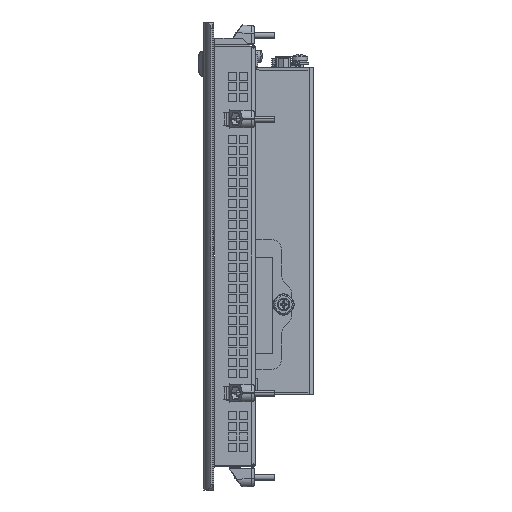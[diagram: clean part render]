
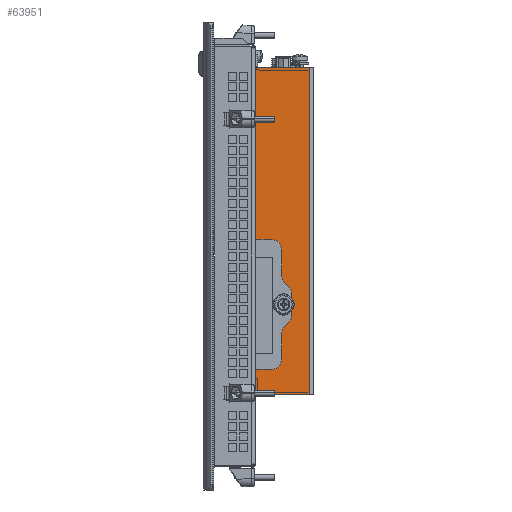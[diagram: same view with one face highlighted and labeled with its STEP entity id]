
A CAD part, left-side view. The second image highlights one B-rep face of the part: STEP entity #63951.
In plain terms, the highlighted planar face has unit normal (-1, 0, 0).
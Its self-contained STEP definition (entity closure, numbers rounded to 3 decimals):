
#39486=DIRECTION('',(0.,0.,1.));
#39487=VECTOR('',#39486,163.5);
#39488=CARTESIAN_POINT('',(-126.5,-47.9,-64.25));
#39489=LINE('',#39488,#39487);
#39490=DIRECTION('',(0.,1.,0.));
#39491=VECTOR('',#39490,8.5);
#39492=CARTESIAN_POINT('',(-126.5,-29.4,4.25));
#39493=LINE('',#39492,#39491);
#39494=DIRECTION('',(0.,-1.,0.));
#39495=VECTOR('',#39494,3.);
#39496=CARTESIAN_POINT('',(-126.5,-17.9,4.25));
#39497=LINE('',#39496,#39495);
#39498=DIRECTION('',(0.,-0.707,-0.707));
#39499=VECTOR('',#39498,1.414);
#39500=CARTESIAN_POINT('',(-126.5,-16.9,5.25));
#39501=LINE('',#39500,#39499);
#39502=DIRECTION('',(0.,0.,-1.));
#39503=VECTOR('',#39502,28.);
#39504=CARTESIAN_POINT('',(-126.5,-16.9,33.25));
#39505=LINE('',#39504,#39503);
#39506=DIRECTION('',(0.,0.707,-0.707));
#39507=VECTOR('',#39506,1.414);
#39508=CARTESIAN_POINT('',(-126.5,-17.9,34.25));
#39509=LINE('',#39508,#39507);
#39510=DIRECTION('',(0.,-1.,0.));
#39511=VECTOR('',#39510,3.);
#39512=CARTESIAN_POINT('',(-126.5,-17.9,34.25));
#39513=LINE('',#39512,#39511);
#39514=DIRECTION('',(0.,0.,-1.));
#39515=VECTOR('',#39514,55.);
#39516=CARTESIAN_POINT('',(-126.5,-20.9,89.25));
#39517=LINE('',#39516,#39515);
#39518=DIRECTION('',(0.,0.,1.));
#39519=VECTOR('',#39518,4.);
#39520=CARTESIAN_POINT('',(-126.5,-20.9,89.25));
#39521=LINE('',#39520,#39519);
#39522=DIRECTION('',(0.,1.,0.));
#39523=VECTOR('',#39522,1.5);
#39524=CARTESIAN_POINT('',(-126.5,-20.9,93.25));
#39525=LINE('',#39524,#39523);
#39526=DIRECTION('',(0.,0.,-1.));
#39527=VECTOR('',#39526,3.);
#39528=CARTESIAN_POINT('',(-126.5,-19.4,93.25));
#39529=LINE('',#39528,#39527);
#39530=DIRECTION('',(0.,-0.707,0.707));
#39531=VECTOR('',#39530,1.414);
#39532=CARTESIAN_POINT('',(-126.5,-18.4,89.25));
#39533=LINE('',#39532,#39531);
#39534=DIRECTION('',(0.,-1.,0.));
#39535=VECTOR('',#39534,0.5);
#39536=CARTESIAN_POINT('',(-126.5,-17.9,89.25));
#39537=LINE('',#39536,#39535);
#39538=DIRECTION('',(0.,-0.707,-0.707));
#39539=VECTOR('',#39538,1.414);
#39540=CARTESIAN_POINT('',(-126.5,-16.9,90.25));
#39541=LINE('',#39540,#39539);
#39542=DIRECTION('',(0.,0.,-1.));
#39543=VECTOR('',#39542,8.);
#39544=CARTESIAN_POINT('',(-126.5,-16.9,98.25));
#39545=LINE('',#39544,#39543);
#39546=DIRECTION('',(0.,0.707,-0.707));
#39547=VECTOR('',#39546,1.414);
#39548=CARTESIAN_POINT('',(-126.5,-17.9,99.25));
#39549=LINE('',#39548,#39547);
#39550=DIRECTION('',(0.,0.,1.));
#39551=VECTOR('',#39550,4.);
#39552=CARTESIAN_POINT('',(-126.5,-20.9,-64.25));
#39553=LINE('',#39552,#39551);
#39554=DIRECTION('',(0.,1.,0.));
#39555=VECTOR('',#39554,1.5);
#39556=CARTESIAN_POINT('',(-126.5,-20.9,-60.25));
#39557=LINE('',#39556,#39555);
#39558=DIRECTION('',(0.,0.,-1.));
#39559=VECTOR('',#39558,3.);
#39560=CARTESIAN_POINT('',(-126.5,-19.4,-60.25));
#39561=LINE('',#39560,#39559);
#39562=DIRECTION('',(0.,-0.707,0.707));
#39563=VECTOR('',#39562,1.414);
#39564=CARTESIAN_POINT('',(-126.5,-18.4,-64.25));
#39565=LINE('',#39564,#39563);
#39566=DIRECTION('',(0.,-0.707,-0.707));
#39567=VECTOR('',#39566,1.414);
#39568=CARTESIAN_POINT('',(-126.5,-16.9,-63.25));
#39569=LINE('',#39568,#39567);
#39570=DIRECTION('',(0.,0.,-1.));
#39571=VECTOR('',#39570,6.5);
#39572=CARTESIAN_POINT('',(-126.5,-16.9,-56.75));
#39573=LINE('',#39572,#39571);
#39574=DIRECTION('',(0.,0.707,-0.707));
#39575=VECTOR('',#39574,1.414);
#39576=CARTESIAN_POINT('',(-126.5,-17.9,-55.75));
#39577=LINE('',#39576,#39575);
#39578=DIRECTION('',(0.,-1.,0.));
#39579=VECTOR('',#39578,3.);
#39580=CARTESIAN_POINT('',(-126.5,-17.9,-55.75));
#39581=LINE('',#39580,#39579);
#39582=DIRECTION('',(0.,0.,-1.));
#39583=VECTOR('',#39582,12.);
#39584=CARTESIAN_POINT('',(-126.5,-20.9,-43.75));
#39585=LINE('',#39584,#39583);
#39586=DIRECTION('',(0.,-1.,0.));
#39587=VECTOR('',#39586,8.5);
#39588=CARTESIAN_POINT('',(-126.5,-20.9,-43.75));
#39589=LINE('',#39588,#39587);
#39590=DIRECTION('',(0.,0.,1.));
#39591=VECTOR('',#39590,48.);
#39592=CARTESIAN_POINT('',(-126.5,-29.4,-43.75));
#39593=LINE('',#39592,#39591);
#39594=CARTESIAN_POINT('',(-126.5,-34.9,-19.25));
#39595=DIRECTION('',(-1.,0.,0.));
#39596=DIRECTION('',(0.,0.,1.));
#39597=AXIS2_PLACEMENT_3D('',#39594,#39595,#39596);
#39599=CARTESIAN_POINT('',(-126.5,-34.9,-19.25));
#39600=DIRECTION('',(-1.,0.,0.));
#39601=DIRECTION('',(0.,0.,-1.));
#39602=AXIS2_PLACEMENT_3D('',#39599,#39600,#39601);
#39766=DIRECTION('',(0.,-1.,0.));
#39767=VECTOR('',#39766,0.5);
#39768=CARTESIAN_POINT('',(-126.5,-17.9,-64.25));
#39769=LINE('',#39768,#39767);
#39778=DIRECTION('',(0.,-1.,0.));
#39779=VECTOR('',#39778,27.);
#39780=CARTESIAN_POINT('',(-126.5,-20.9,-64.25));
#39781=LINE('',#39780,#39779);
#39794=DIRECTION('',(0.,1.,0.));
#39795=VECTOR('',#39794,30.);
#39796=CARTESIAN_POINT('',(-126.5,-47.9,99.25));
#39797=LINE('',#39796,#39795);
#52466=CARTESIAN_POINT('',(-126.5,-47.9,-64.25));
#52467=CARTESIAN_POINT('',(-126.5,-47.9,99.25));
#52468=VERTEX_POINT('',#52466);
#52469=VERTEX_POINT('',#52467);
#54952=CARTESIAN_POINT('',(-126.5,-20.9,-60.25));
#54953=CARTESIAN_POINT('',(-126.5,-20.9,-64.25));
#54954=VERTEX_POINT('',#54952);
#54955=VERTEX_POINT('',#54953);
#54956=CARTESIAN_POINT('',(-126.5,-19.4,-60.25));
#54957=VERTEX_POINT('',#54956);
#54978=CARTESIAN_POINT('',(-126.5,-20.9,89.25));
#54979=CARTESIAN_POINT('',(-126.5,-20.9,34.25));
#54980=VERTEX_POINT('',#54978);
#54981=VERTEX_POINT('',#54979);
#54994=CARTESIAN_POINT('',(-126.5,-20.9,-55.75));
#54996=VERTEX_POINT('',#54994);
#55030=CARTESIAN_POINT('',(-126.5,-17.9,-55.75));
#55031=CARTESIAN_POINT('',(-126.5,-16.9,-56.75));
#55032=VERTEX_POINT('',#55030);
#55033=VERTEX_POINT('',#55031);
#55038=CARTESIAN_POINT('',(-126.5,-16.9,5.25));
#55039=CARTESIAN_POINT('',(-126.5,-17.9,4.25));
#55040=VERTEX_POINT('',#55038);
#55041=VERTEX_POINT('',#55039);
#55046=CARTESIAN_POINT('',(-126.5,-17.9,34.25));
#55047=CARTESIAN_POINT('',(-126.5,-16.9,33.25));
#55048=VERTEX_POINT('',#55046);
#55049=VERTEX_POINT('',#55047);
#55054=CARTESIAN_POINT('',(-126.5,-16.9,90.25));
#55055=CARTESIAN_POINT('',(-126.5,-17.9,89.25));
#55056=VERTEX_POINT('',#55054);
#55057=VERTEX_POINT('',#55055);
#55064=CARTESIAN_POINT('',(-126.5,-18.4,89.25));
#55065=VERTEX_POINT('',#55064);
#55070=CARTESIAN_POINT('',(-126.5,-16.9,98.25));
#55071=VERTEX_POINT('',#55070);
#55072=CARTESIAN_POINT('',(-126.5,-16.9,-63.25));
#55073=VERTEX_POINT('',#55072);
#55086=CARTESIAN_POINT('',(-126.5,-20.9,4.25));
#55087=CARTESIAN_POINT('',(-126.5,-29.4,4.25));
#55088=VERTEX_POINT('',#55086);
#55089=VERTEX_POINT('',#55087);
#55090=CARTESIAN_POINT('',(-126.5,-29.4,-43.75));
#55091=VERTEX_POINT('',#55090);
#55092=CARTESIAN_POINT('',(-126.5,-20.9,-43.75));
#55093=VERTEX_POINT('',#55092);
#55106=CARTESIAN_POINT('',(-126.5,-19.4,93.25));
#55107=CARTESIAN_POINT('',(-126.5,-20.9,93.25));
#55108=VERTEX_POINT('',#55106);
#55109=VERTEX_POINT('',#55107);
#55130=CARTESIAN_POINT('',(-126.5,-18.4,-64.25));
#55131=CARTESIAN_POINT('',(-126.5,-19.4,-63.25));
#55132=VERTEX_POINT('',#55130);
#55133=VERTEX_POINT('',#55131);
#55138=CARTESIAN_POINT('',(-126.5,-19.4,90.25));
#55139=VERTEX_POINT('',#55138);
#55150=CARTESIAN_POINT('',(-126.5,-17.9,-64.25));
#55151=VERTEX_POINT('',#55150);
#55154=CARTESIAN_POINT('',(-126.5,-17.9,99.25));
#55155=VERTEX_POINT('',#55154);
#57742=CARTESIAN_POINT('',(-126.5,-34.9,-21.4));
#57743=CARTESIAN_POINT('',(-126.5,-34.9,-17.1));
#57744=VERTEX_POINT('',#57742);
#57745=VERTEX_POINT('',#57743);
#63879=CARTESIAN_POINT('',(-126.5,-20.9,-64.25));
#63880=DIRECTION('',(-1.,0.,0.));
#63881=DIRECTION('',(0.,-1.,0.));
#63882=AXIS2_PLACEMENT_3D('',#63879,#63880,#63881);
#63883=PLANE('',#63882);
#63885=ORIENTED_EDGE('',*,*,#63884,.T.);
#63887=ORIENTED_EDGE('',*,*,#63886,.F.);
#63889=ORIENTED_EDGE('',*,*,#63888,.F.);
#63891=ORIENTED_EDGE('',*,*,#63890,.F.);
#63893=ORIENTED_EDGE('',*,*,#63892,.F.);
#63895=ORIENTED_EDGE('',*,*,#63894,.T.);
#63897=ORIENTED_EDGE('',*,*,#63896,.F.);
#63899=ORIENTED_EDGE('',*,*,#63898,.T.);
#63901=ORIENTED_EDGE('',*,*,#63900,.T.);
#63903=ORIENTED_EDGE('',*,*,#63902,.T.);
#63905=ORIENTED_EDGE('',*,*,#63904,.F.);
#63907=ORIENTED_EDGE('',*,*,#63906,.F.);
#63909=ORIENTED_EDGE('',*,*,#63908,.F.);
#63911=ORIENTED_EDGE('',*,*,#63910,.F.);
#63913=ORIENTED_EDGE('',*,*,#63912,.F.);
#63915=ORIENTED_EDGE('',*,*,#63914,.F.);
#63916=ORIENTED_EDGE('',*,*,#63871,.F.);
#63918=ORIENTED_EDGE('',*,*,#63917,.F.);
#63920=ORIENTED_EDGE('',*,*,#63919,.T.);
#63922=ORIENTED_EDGE('',*,*,#63921,.T.);
#63924=ORIENTED_EDGE('',*,*,#63923,.T.);
#63926=ORIENTED_EDGE('',*,*,#63925,.F.);
#63928=ORIENTED_EDGE('',*,*,#63927,.F.);
#63930=ORIENTED_EDGE('',*,*,#63929,.F.);
#63932=ORIENTED_EDGE('',*,*,#63931,.F.);
#63934=ORIENTED_EDGE('',*,*,#63933,.F.);
#63936=ORIENTED_EDGE('',*,*,#63935,.T.);
#63938=ORIENTED_EDGE('',*,*,#63937,.F.);
#63940=ORIENTED_EDGE('',*,*,#63939,.T.);
#63942=ORIENTED_EDGE('',*,*,#63941,.T.);
#63943=EDGE_LOOP('',(#63885,#63887,#63889,#63891,#63893,#63895,#63897,#63899,
#63901,#63903,#63905,#63907,#63909,#63911,#63913,#63915,#63916,#63918,#63920,
#63922,#63924,#63926,#63928,#63930,#63932,#63934,#63936,#63938,#63940,#63942));
#63944=FACE_OUTER_BOUND('',#63943,.F.);
#63946=ORIENTED_EDGE('',*,*,#63945,.T.);
#63948=ORIENTED_EDGE('',*,*,#63947,.T.);
#63949=EDGE_LOOP('',(#63946,#63948));
#63950=FACE_BOUND('',#63949,.F.);
#39598=CIRCLE('',#39597,2.15);
#39603=CIRCLE('',#39602,2.15);
#63871=EDGE_CURVE('',#52468,#52469,#39489,.T.);
#63884=EDGE_CURVE('',#55089,#55088,#39493,.T.);
#63886=EDGE_CURVE('',#55041,#55088,#39497,.T.);
#63888=EDGE_CURVE('',#55040,#55041,#39501,.T.);
#63890=EDGE_CURVE('',#55049,#55040,#39505,.T.);
#63892=EDGE_CURVE('',#55048,#55049,#39509,.T.);
#63894=EDGE_CURVE('',#55048,#54981,#39513,.T.);
#63896=EDGE_CURVE('',#54980,#54981,#39517,.T.);
#63898=EDGE_CURVE('',#54980,#55109,#39521,.T.);
#63900=EDGE_CURVE('',#55109,#55108,#39525,.T.);
#63902=EDGE_CURVE('',#55108,#55139,#39529,.T.);
#63904=EDGE_CURVE('',#55065,#55139,#39533,.T.);
#63906=EDGE_CURVE('',#55057,#55065,#39537,.T.);
#63908=EDGE_CURVE('',#55056,#55057,#39541,.T.);
#63910=EDGE_CURVE('',#55071,#55056,#39545,.T.);
#63912=EDGE_CURVE('',#55155,#55071,#39549,.T.);
#63914=EDGE_CURVE('',#52469,#55155,#39797,.T.);
#63917=EDGE_CURVE('',#54955,#52468,#39781,.T.);
#63919=EDGE_CURVE('',#54955,#54954,#39553,.T.);
#63921=EDGE_CURVE('',#54954,#54957,#39557,.T.);
#63923=EDGE_CURVE('',#54957,#55133,#39561,.T.);
#63925=EDGE_CURVE('',#55132,#55133,#39565,.T.);
#63927=EDGE_CURVE('',#55151,#55132,#39769,.T.);
#63929=EDGE_CURVE('',#55073,#55151,#39569,.T.);
#63931=EDGE_CURVE('',#55033,#55073,#39573,.T.);
#63933=EDGE_CURVE('',#55032,#55033,#39577,.T.);
#63935=EDGE_CURVE('',#55032,#54996,#39581,.T.);
#63937=EDGE_CURVE('',#55093,#54996,#39585,.T.);
#63939=EDGE_CURVE('',#55093,#55091,#39589,.T.);
#63941=EDGE_CURVE('',#55091,#55089,#39593,.T.);
#63945=EDGE_CURVE('',#57745,#57744,#39598,.T.);
#63947=EDGE_CURVE('',#57744,#57745,#39603,.T.);
#63951=ADVANCED_FACE('',(#63944,#63950),#63883,.T.);
